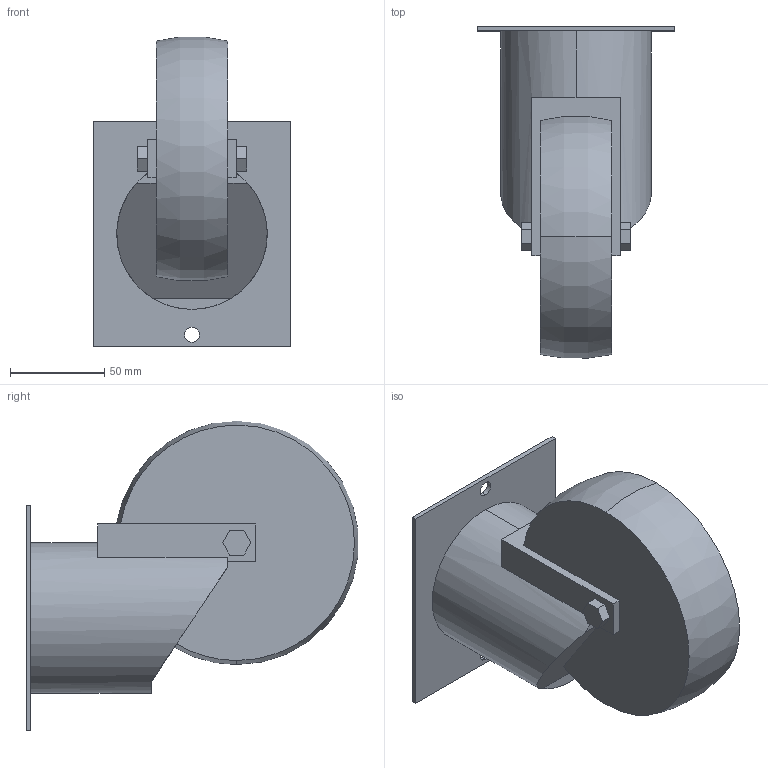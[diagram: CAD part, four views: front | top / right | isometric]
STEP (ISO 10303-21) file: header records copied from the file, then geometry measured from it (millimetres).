
FILE_DESCRIPTION (( 'STEP AP214' ), '1' );
FILE_NAME ('ST-130_ST-130VU.step', '2024-02-19T02:11:42', ( 'catia' ), ( 'HP Inc.' ), 'SwSTEP 2.0', 'SolidWorks 2021', '' );
FILE_SCHEMA (( 'AUTOMOTIVE_DESIGN' ));
Length unit declared in the file: millimetre
Products named in the file (1): ST-130_ST-130VU
Bounding box: 105 x 176.37 x 164.73 mm (x, y, z)
Volume: 896577.2 mm3; surface area: 79622.9 mm2
Topology: 1 solids, 1 shells, 43 faces, 114 edges, 76 vertices
Faces by surface type: plane 34, cylinder 6, torus 3
Entity records: 1402 total; most frequent: CARTESIAN_POINT 272, ORIENTED_EDGE 228, DIRECTION 222, EDGE_CURVE 114, LINE 86, VECTOR 86, VERTEX_POINT 76, AXIS2_PLACEMENT_3D 68
